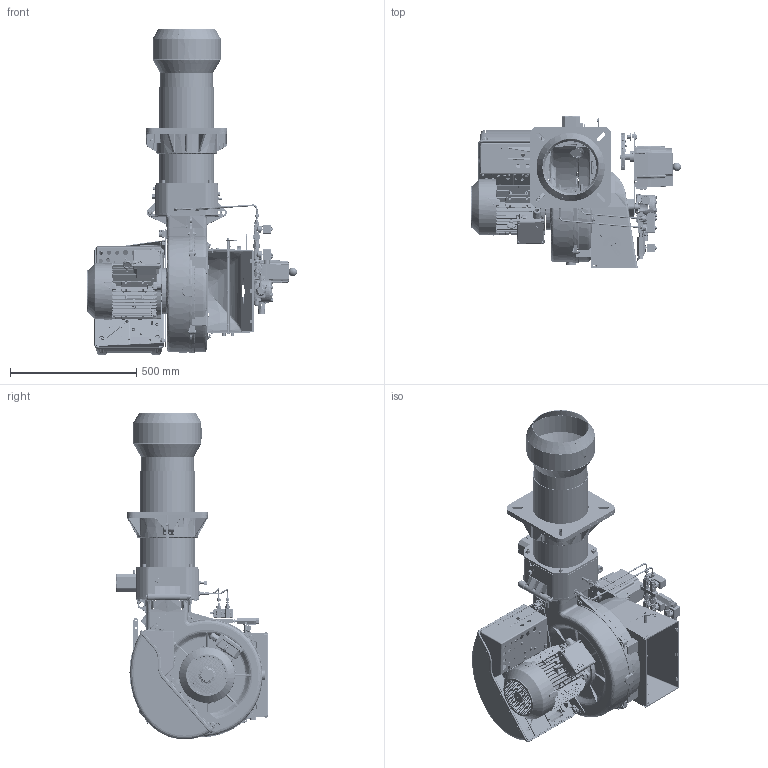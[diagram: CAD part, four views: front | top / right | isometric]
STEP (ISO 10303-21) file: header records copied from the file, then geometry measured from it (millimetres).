
FILE_DESCRIPTION (( 'STEP AP214' ), '1' );
FILE_NAME ('TBML 260 MC.STEP', '2019-12-05T10:38:26', ( '' ), ( '' ), 'SwSTEP 2.0', 'SolidWorks 2018', '' );
FILE_SCHEMA (( 'AUTOMOTIVE_DESIGN' ));
Length unit declared in the file: millimetre
Products named in the file (1): TBML 260 MC
Bounding box: 830 x 598.57 x 1291.55 mm (x, y, z)
Surface area: 4836389.2 mm2 (no closed solid volume)
Topology: 0 solids, 586 shells, 6015 faces, 28323 edges, 21744 vertices
Faces by surface type: plane 2710, cylinder 1706, bspline 1114, cone 384, torus 75, sphere 26
Full cylindrical faces by diameter (mm): 2.459 x1, 3.3 x1, 3.5 x1, 3.7 x3, 3.8 x1, 3.9 x2, 4 x1, 4.2 x7, 4.5 x9, 4.58 x2, 4.7 x1, 4.8 x1, 5 x17, 5.2 x1, 5.4 x2, 5.7 x4, 6 x22, 6.2 x2, 6.5 x2, 6.647 x1, 6.8 x1, 7 x2, 7.5 x2, 7.8 x5, 7.9 x1, 8 x18, 8.2 x1, 8.5 x5, 8.728 x2, 9 x2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
Entity records: 541641 total; most frequent: CARTESIAN_POINT 286160, ORIENTED_EDGE 36927, DIRECTION 28487, EDGE_CURVE 27576, VERTEX_POINT 21568, B_SPLINE_CURVE_WITH_KNOTS 12452, VECTOR 10923, LINE 10923
